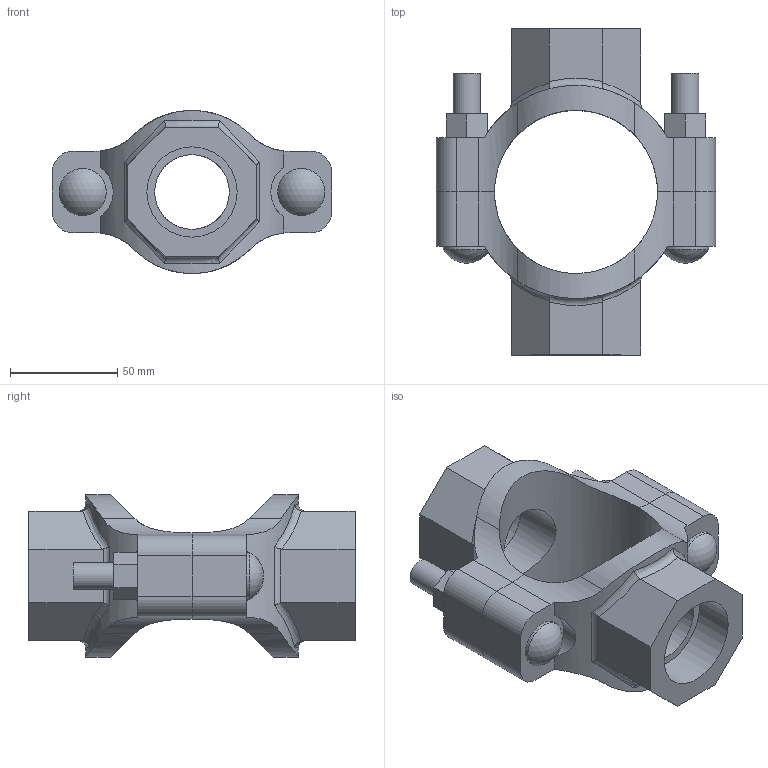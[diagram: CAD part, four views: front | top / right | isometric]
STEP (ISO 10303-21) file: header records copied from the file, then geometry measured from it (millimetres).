
FILE_DESCRIPTION(/* description */ ('VIC MECH-T BRANCH OUTLET CROSS STYLE 920N (THD)','CAx-IF Rec.Pracs.---Representation and Presentation of Product Manufacturing Information (PMI)---4.0---2014-10-13'),/* implementation_level */ '2;1');
FILE_NAME(/* name */ 'C:\Users\Vjadhav\AppData\Roaming\Autodesk\ApplicationPlugins\Back Up\Victaulic_IPS_Mechanical-Cross Outlet_Style 920N (FPT)\Victaulic_IPS_Mechanical-Cross Outlet_02.5 (76.1)x01.25x01.25 (65x32x32).stp',/* time_stamp */ '2020-08-06T18:56:55+05:00',/* author */ ('Vjadhav'),/* organization */ ('Victaulic'),/* preprocessor_version */ 'ST-DEVELOPER v17.2',/* originating_system */ 'Autodesk Inventor 2019',/* authorisation */ '');
FILE_SCHEMA (('AP242_MANAGED_MODEL_BASED_3D_ENGINEERING_MIM_LF { 1 0 10303 442 1 1 4 }'));
Length unit declared in the file: inch
Products named in the file (3): 920NT-02.5 (76.1)x01.25x01.25; 920NT-02.5 (76.1)x01.25; 920NT-02.5 (76.1)x01.25_1
Assembly tree (2 placements, depth 2):
  920NT-02.5 (76.1)x01.25x01.25
    920NT-02.5 (76.1)x01.25
    920NT-02.5 (76.1)x01.25_1
Bounding box: 130.56 x 152.4 x 76.18 mm (x, y, z)
Volume: 323136.2 mm3; surface area: 77648.4 mm2
Topology: 2 solids, 2 shells, 132 faces, 350 edges, 236 vertices
Faces by surface type: plane 68, cylinder 50, bspline 8, torus 4, sphere 2
Full cylindrical faces by diameter (mm): 12.7 x4, 21.982 x2, 34.925 x2, 42.164 x2
Entity records: 5220 total; most frequent: CARTESIAN_POINT 1695, ORIENTED_EDGE 700, DIRECTION 656, EDGE_CURVE 350, VERTEX_POINT 236, AXIS2_PLACEMENT_3D 235, LINE 186, VECTOR 186
